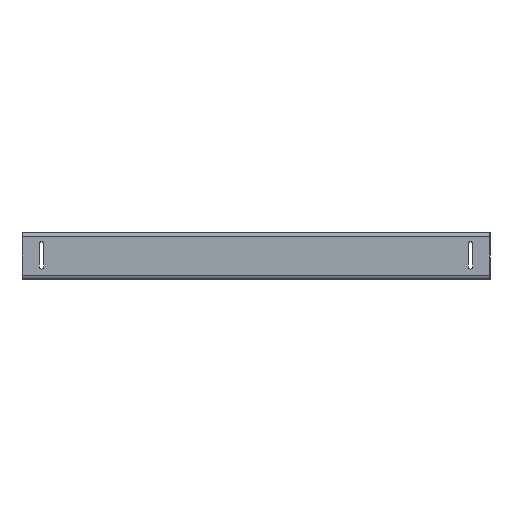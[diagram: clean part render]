
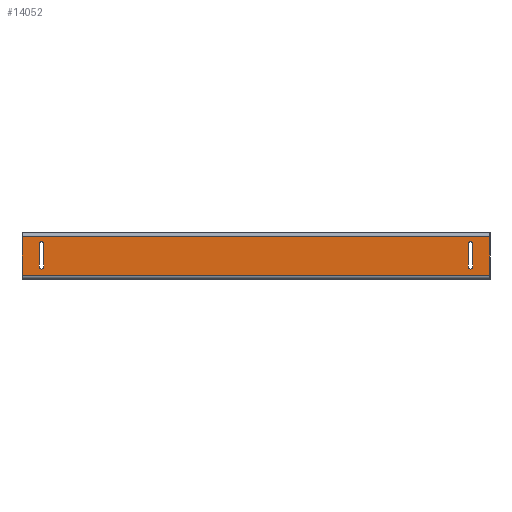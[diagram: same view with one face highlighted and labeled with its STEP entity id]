
A CAD part, front view. The second image highlights one B-rep face of the part: STEP entity #14052.
In plain terms, the highlighted planar face has unit normal (0, -1, 0).
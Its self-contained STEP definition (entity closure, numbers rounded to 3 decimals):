
#42 = EDGE_LOOP ( 'NONE', ( #33518, #20740, #29566, #43344, #23370 ) ) ;
#214 = EDGE_CURVE ( 'NONE', #36386, #17534, #37577, .T. ) ;
#1008 = CARTESIAN_POINT ( 'NONE',  ( 639.14, 0., -5.283 ) ) ;
#1936 = EDGE_CURVE ( 'NONE', #47127, #18217, #48943, .T. ) ;
#2346 = DIRECTION ( 'NONE',  ( 0., 0., 1. ) ) ;
#2423 = DIRECTION ( 'NONE',  ( 1., 0., 0. ) ) ;
#3573 = ORIENTED_EDGE ( 'NONE', *, *, #22046, .T. ) ;
#4525 = ORIENTED_EDGE ( 'NONE', *, *, #34227, .T. ) ;
#4686 = EDGE_CURVE ( 'NONE', #20550, #36386, #35862, .T. ) ;
#5380 = CARTESIAN_POINT ( 'NONE',  ( 639.14, 0., 0. ) ) ;
#5468 = DIRECTION ( 'NONE',  ( 0., 1., 0. ) ) ;
#6366 = EDGE_CURVE ( 'NONE', #26005, #18326, #7040, .T. ) ;
#6563 = CARTESIAN_POINT ( 'NONE',  ( 23.825, 0., -46.794 ) ) ;
#6617 = CIRCLE ( 'NONE', #33789, 2.845 ) ;
#6751 = CARTESIAN_POINT ( 'NONE',  ( 0., 0., -58.217 ) ) ;
#7040 = LINE ( 'NONE', #6563, #49147 ) ;
#7710 = EDGE_CURVE ( 'NONE', #17534, #23990, #33705, .T. ) ;
#8383 = CARTESIAN_POINT ( 'NONE',  ( 609.625, 0., -46.794 ) ) ;
#8497 = AXIS2_PLACEMENT_3D ( 'NONE', #37149, #12770, #41289 ) ;
#9415 = EDGE_LOOP ( 'NONE', ( #46693, #35676, #32077, #45736, #12450 ) ) ;
#9493 = DIRECTION ( 'NONE',  ( 0., 0., -1. ) ) ;
#10564 = CARTESIAN_POINT ( 'NONE',  ( 639.14, 0., -5.283 ) ) ;
#10895 = CARTESIAN_POINT ( 'NONE',  ( 0., 0., 0. ) ) ;
#11002 = AXIS2_PLACEMENT_3D ( 'NONE', #51190, #26703, #2346 ) ;
#11207 = LINE ( 'NONE', #10564, #42451 ) ;
#11225 = DIRECTION ( 'NONE',  ( 0., 0., -1. ) ) ;
#11782 = VECTOR ( 'NONE', #50028, 1000. ) ;
#12118 = VERTEX_POINT ( 'NONE', #39803 ) ;
#12408 = DIRECTION ( 'NONE',  ( 0., 1., 0. ) ) ;
#12450 = ORIENTED_EDGE ( 'NONE', *, *, #30025, .T. ) ;
#12770 = DIRECTION ( 'NONE',  ( 0., 1., 0. ) ) ;
#13014 = CIRCLE ( 'NONE', #19651, 2.845 ) ;
#13139 = ORIENTED_EDGE ( 'NONE', *, *, #1936, .F. ) ;
#13704 = VECTOR ( 'NONE', #2423, 1000. ) ;
#13969 = DIRECTION ( 'NONE',  ( 0., 1., 0. ) ) ;
#14052 = ADVANCED_FACE ( 'NONE', ( #36968, #27399, #35682 ), #23123, .T. ) ;
#14643 = DIRECTION ( 'NONE',  ( -1., 0., 0. ) ) ;
#16805 = EDGE_CURVE ( 'NONE', #12118, #20550, #13014, .T. ) ;
#16925 = CARTESIAN_POINT ( 'NONE',  ( 615.315, 0., -15.044 ) ) ;
#17534 = VERTEX_POINT ( 'NONE', #26209 ) ;
#17763 = DIRECTION ( 'NONE',  ( 0., 1., 0. ) ) ;
#18217 = VERTEX_POINT ( 'NONE', #34503 ) ;
#18323 = VERTEX_POINT ( 'NONE', #6751 ) ;
#18326 = VERTEX_POINT ( 'NONE', #47755 ) ;
#18666 = CARTESIAN_POINT ( 'NONE',  ( 29.515, 0., -46.794 ) ) ;
#18889 = AXIS2_PLACEMENT_3D ( 'NONE', #10895, #51727, #27215 ) ;
#18924 = VERTEX_POINT ( 'NONE', #31054 ) ;
#19651 = AXIS2_PLACEMENT_3D ( 'NONE', #42236, #17763, #46327 ) ;
#19834 = CARTESIAN_POINT ( 'NONE',  ( 26.67, 0., -12.199 ) ) ;
#19866 = CARTESIAN_POINT ( 'NONE',  ( 0., 0., -5.283 ) ) ;
#20550 = VERTEX_POINT ( 'NONE', #8383 ) ;
#20740 = ORIENTED_EDGE ( 'NONE', *, *, #4686, .T. ) ;
#22032 = VERTEX_POINT ( 'NONE', #34738 ) ;
#22046 = EDGE_CURVE ( 'NONE', #47127, #30166, #11207, .T. ) ;
#22754 = DIRECTION ( 'NONE',  ( 0., 0., -1. ) ) ;
#23123 = PLANE ( 'NONE',  #18889 ) ;
#23134 = CARTESIAN_POINT ( 'NONE',  ( 23.825, 0., -46.794 ) ) ;
#23370 = ORIENTED_EDGE ( 'NONE', *, *, #36109, .T. ) ;
#23990 = VERTEX_POINT ( 'NONE', #16925 ) ;
#24611 = AXIS2_PLACEMENT_3D ( 'NONE', #38370, #13969, #42506 ) ;
#25823 = AXIS2_PLACEMENT_3D ( 'NONE', #29819, #5468, #33938 ) ;
#26005 = VERTEX_POINT ( 'NONE', #23134 ) ;
#26209 = CARTESIAN_POINT ( 'NONE',  ( 612.47, 0., -12.199 ) ) ;
#26683 = EDGE_CURVE ( 'NONE', #22032, #26005, #6617, .T. ) ;
#26703 = DIRECTION ( 'NONE',  ( 0., 1., 0. ) ) ;
#26849 = EDGE_CURVE ( 'NONE', #18323, #30166, #52621, .T. ) ;
#27194 = VECTOR ( 'NONE', #9493, 1000. ) ;
#27215 = DIRECTION ( 'NONE',  ( 0., 0., -1. ) ) ;
#27399 = FACE_BOUND ( 'NONE', #9415, .T. ) ;
#27948 = LINE ( 'NONE', #18666, #38824 ) ;
#28406 = CARTESIAN_POINT ( 'NONE',  ( 609.625, 0., -46.794 ) ) ;
#29566 = ORIENTED_EDGE ( 'NONE', *, *, #214, .T. ) ;
#29819 = CARTESIAN_POINT ( 'NONE',  ( 612.47, 0., -15.044 ) ) ;
#30025 = EDGE_CURVE ( 'NONE', #18924, #22032, #27948, .T. ) ;
#30166 = VERTEX_POINT ( 'NONE', #19866 ) ;
#31054 = CARTESIAN_POINT ( 'NONE',  ( 29.515, 0., -15.044 ) ) ;
#32077 = ORIENTED_EDGE ( 'NONE', *, *, #42268, .T. ) ;
#33086 = CARTESIAN_POINT ( 'NONE',  ( 609.625, 0., -15.044 ) ) ;
#33518 = ORIENTED_EDGE ( 'NONE', *, *, #16805, .T. ) ;
#33705 = CIRCLE ( 'NONE', #25823, 2.845 ) ;
#33789 = AXIS2_PLACEMENT_3D ( 'NONE', #36789, #12408, #40939 ) ;
#33842 = VERTEX_POINT ( 'NONE', #19834 ) ;
#33938 = DIRECTION ( 'NONE',  ( 0., 0., -1. ) ) ;
#34227 = EDGE_CURVE ( 'NONE', #18323, #18217, #46270, .T. ) ;
#34503 = CARTESIAN_POINT ( 'NONE',  ( 639.14, 0., -58.217 ) ) ;
#34738 = CARTESIAN_POINT ( 'NONE',  ( 29.515, 0., -46.794 ) ) ;
#35676 = ORIENTED_EDGE ( 'NONE', *, *, #6366, .T. ) ;
#35682 = FACE_OUTER_BOUND ( 'NONE', #39338, .T. ) ;
#35862 = LINE ( 'NONE', #28406, #45494 ) ;
#36109 = EDGE_CURVE ( 'NONE', #23990, #12118, #46689, .T. ) ;
#36386 = VERTEX_POINT ( 'NONE', #33086 ) ;
#36789 = CARTESIAN_POINT ( 'NONE',  ( 26.67, 0., -46.794 ) ) ;
#36968 = FACE_BOUND ( 'NONE', #42, .T. ) ;
#37149 = CARTESIAN_POINT ( 'NONE',  ( 26.67, 0., -15.044 ) ) ;
#37577 = CIRCLE ( 'NONE', #24611, 2.845 ) ;
#38370 = CARTESIAN_POINT ( 'NONE',  ( 612.47, 0., -15.044 ) ) ;
#38824 = VECTOR ( 'NONE', #22754, 1000. ) ;
#38983 = EDGE_CURVE ( 'NONE', #33842, #18924, #44656, .T. ) ;
#39149 = DIRECTION ( 'NONE',  ( 0., 0., 1. ) ) ;
#39338 = EDGE_LOOP ( 'NONE', ( #49709, #4525, #13139, #3573 ) ) ;
#39663 = VECTOR ( 'NONE', #11225, 1000. ) ;
#39803 = CARTESIAN_POINT ( 'NONE',  ( 615.315, 0., -46.794 ) ) ;
#40609 = DIRECTION ( 'NONE',  ( 0., 0., 1. ) ) ;
#40939 = DIRECTION ( 'NONE',  ( 0., 0., 1. ) ) ;
#41289 = DIRECTION ( 'NONE',  ( 0., 0., 1. ) ) ;
#42236 = CARTESIAN_POINT ( 'NONE',  ( 612.47, 0., -46.794 ) ) ;
#42268 = EDGE_CURVE ( 'NONE', #18326, #33842, #44196, .T. ) ;
#42451 = VECTOR ( 'NONE', #14643, 1000. ) ;
#42506 = DIRECTION ( 'NONE',  ( 0., 0., -1. ) ) ;
#43344 = ORIENTED_EDGE ( 'NONE', *, *, #7710, .T. ) ;
#44196 = CIRCLE ( 'NONE', #11002, 2.845 ) ;
#44656 = CIRCLE ( 'NONE', #8497, 2.845 ) ;
#45494 = VECTOR ( 'NONE', #40609, 1000. ) ;
#45736 = ORIENTED_EDGE ( 'NONE', *, *, #38983, .T. ) ;
#45919 = CARTESIAN_POINT ( 'NONE',  ( 0., 0., 0. ) ) ;
#46270 = LINE ( 'NONE', #51252, #13704 ) ;
#46327 = DIRECTION ( 'NONE',  ( 0., 0., -1. ) ) ;
#46689 = LINE ( 'NONE', #51883, #39663 ) ;
#46693 = ORIENTED_EDGE ( 'NONE', *, *, #26683, .T. ) ;
#47127 = VERTEX_POINT ( 'NONE', #1008 ) ;
#47755 = CARTESIAN_POINT ( 'NONE',  ( 23.825, 0., -15.044 ) ) ;
#48943 = LINE ( 'NONE', #5380, #27194 ) ;
#49147 = VECTOR ( 'NONE', #39149, 1000. ) ;
#49709 = ORIENTED_EDGE ( 'NONE', *, *, #26849, .F. ) ;
#50028 = DIRECTION ( 'NONE',  ( 0., 0., 1. ) ) ;
#51190 = CARTESIAN_POINT ( 'NONE',  ( 26.67, 0., -15.044 ) ) ;
#51252 = CARTESIAN_POINT ( 'NONE',  ( 0., 0., -58.217 ) ) ;
#51727 = DIRECTION ( 'NONE',  ( 0., -1., 0. ) ) ;
#51883 = CARTESIAN_POINT ( 'NONE',  ( 615.315, 0., -46.794 ) ) ;
#52621 = LINE ( 'NONE', #45919, #11782 ) ;
